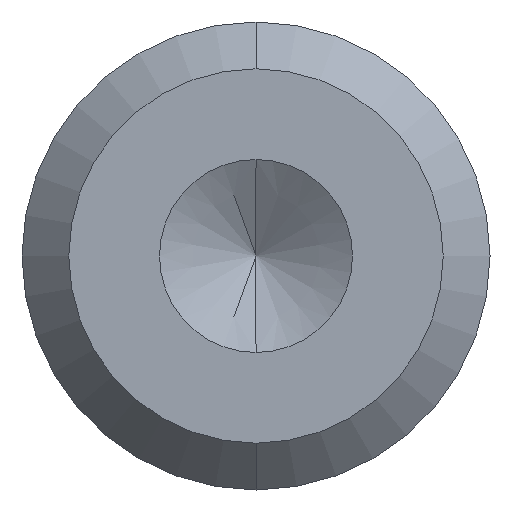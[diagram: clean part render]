
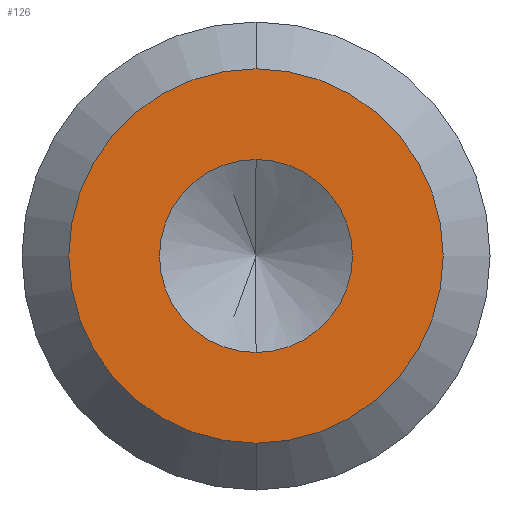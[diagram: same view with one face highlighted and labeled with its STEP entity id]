
A CAD part, front view. The second image highlights one B-rep face of the part: STEP entity #126.
In plain terms, the highlighted planar face has unit normal (0, -1, 0).
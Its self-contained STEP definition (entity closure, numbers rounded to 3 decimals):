
#2 = EDGE_LOOP ( 'NONE', ( #471, #179 ) ) ;
#13 = CIRCLE ( 'NONE', #355, 3.2 ) ;
#15 = AXIS2_PLACEMENT_3D ( 'NONE', #168, #99, #178 ) ;
#24 = AXIS2_PLACEMENT_3D ( 'NONE', #151, #298, #268 ) ;
#30 = AXIS2_PLACEMENT_3D ( 'NONE', #434, #69, #212 ) ;
#35 = FACE_BOUND ( 'NONE', #2, .T. ) ;
#40 = CARTESIAN_POINT ( 'NONE',  ( 0., 0., 0. ) ) ;
#67 = VERTEX_POINT ( 'NONE', #266 ) ;
#69 = DIRECTION ( 'NONE',  ( 0., -1., 0. ) ) ;
#73 = VERTEX_POINT ( 'NONE', #408 ) ;
#99 = DIRECTION ( 'NONE',  ( 0., -1., 0. ) ) ;
#126 = ADVANCED_FACE ( 'NONE', ( #480, #35 ), #439, .F. ) ;
#129 = DIRECTION ( 'NONE',  ( 0., 0., 1. ) ) ;
#140 = EDGE_LOOP ( 'NONE', ( #176, #348 ) ) ;
#151 = CARTESIAN_POINT ( 'NONE',  ( 0., 0., 0. ) ) ;
#168 = CARTESIAN_POINT ( 'NONE',  ( 0., 0., 0. ) ) ;
#176 = ORIENTED_EDGE ( 'NONE', *, *, #352, .T. ) ;
#178 = DIRECTION ( 'NONE',  ( 0., 0., -1. ) ) ;
#179 = ORIENTED_EDGE ( 'NONE', *, *, #341, .F. ) ;
#182 = DIRECTION ( 'NONE',  ( 0., 0., 1. ) ) ;
#183 = CIRCLE ( 'NONE', #30, 1.65 ) ;
#197 = CARTESIAN_POINT ( 'NONE',  ( 0., 0., -1.65 ) ) ;
#212 = DIRECTION ( 'NONE',  ( 0., 0., -1. ) ) ;
#215 = EDGE_CURVE ( 'NONE', #409, #67, #479, .T. ) ;
#249 = VERTEX_POINT ( 'NONE', #458 ) ;
#266 = CARTESIAN_POINT ( 'NONE',  ( 0., 0., 1.65 ) ) ;
#268 = DIRECTION ( 'NONE',  ( 0., 0., 1. ) ) ;
#280 = CARTESIAN_POINT ( 'NONE',  ( 0., 0., 0. ) ) ;
#298 = DIRECTION ( 'NONE',  ( 0., 1., 0. ) ) ;
#317 = EDGE_CURVE ( 'NONE', #73, #249, #13, .T. ) ;
#332 = DIRECTION ( 'NONE',  ( 0., -1., 0. ) ) ;
#341 = EDGE_CURVE ( 'NONE', #67, #409, #183, .T. ) ;
#348 = ORIENTED_EDGE ( 'NONE', *, *, #317, .T. ) ;
#352 = EDGE_CURVE ( 'NONE', #249, #73, #394, .T. ) ;
#355 = AXIS2_PLACEMENT_3D ( 'NONE', #280, #454, #129 ) ;
#394 = CIRCLE ( 'NONE', #414, 3.2 ) ;
#408 = CARTESIAN_POINT ( 'NONE',  ( 0., 0., -3.2 ) ) ;
#409 = VERTEX_POINT ( 'NONE', #197 ) ;
#414 = AXIS2_PLACEMENT_3D ( 'NONE', #40, #332, #182 ) ;
#434 = CARTESIAN_POINT ( 'NONE',  ( 0., 0., 0. ) ) ;
#439 = PLANE ( 'NONE',  #24 ) ;
#454 = DIRECTION ( 'NONE',  ( 0., -1., 0. ) ) ;
#458 = CARTESIAN_POINT ( 'NONE',  ( 0., 0., 3.2 ) ) ;
#471 = ORIENTED_EDGE ( 'NONE', *, *, #215, .F. ) ;
#479 = CIRCLE ( 'NONE', #15, 1.65 ) ;
#480 = FACE_OUTER_BOUND ( 'NONE', #140, .T. ) ;
